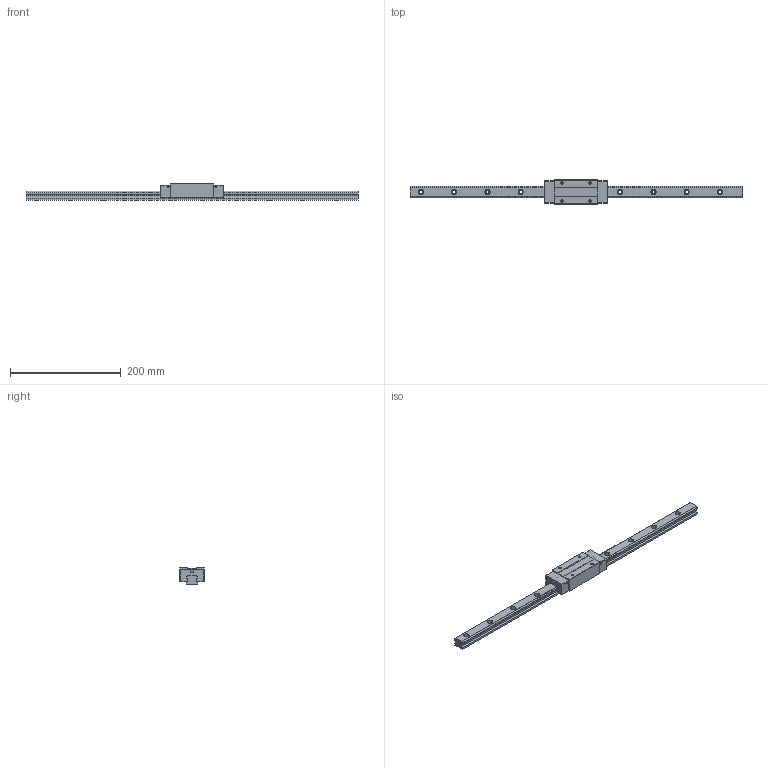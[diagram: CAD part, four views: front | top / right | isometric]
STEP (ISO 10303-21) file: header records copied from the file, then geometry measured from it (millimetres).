
FILE_DESCRIPTION (( 'STEP AP203' ), '1' );
FILE_NAME ('TRH20VE-SZ.STEP', '2024-07-10T02:28:19', ( '' ), ( '' ), 'SwSTEP 2.0', 'SolidWorks 2022', '' );
FILE_SCHEMA (( 'CONFIG_CONTROL_DESIGN' ));
Length unit declared in the file: millimetre
Products named in the file (1): TRH20VE-SZ
Bounding box: 600 x 44 x 30 mm (x, y, z)
Volume: 263518 mm3; surface area: 70363.7 mm2
Topology: 2 solids, 2 shells, 196 faces, 512 edges, 332 vertices
Faces by surface type: cylinder 96, plane 84, cone 16
Entity records: 6127 total; most frequent: DIRECTION 1098, CARTESIAN_POINT 1033, ORIENTED_EDGE 1008, EDGE_CURVE 504, AXIS2_PLACEMENT_3D 397, VERTEX_POINT 332, VECTOR 304, LINE 304
